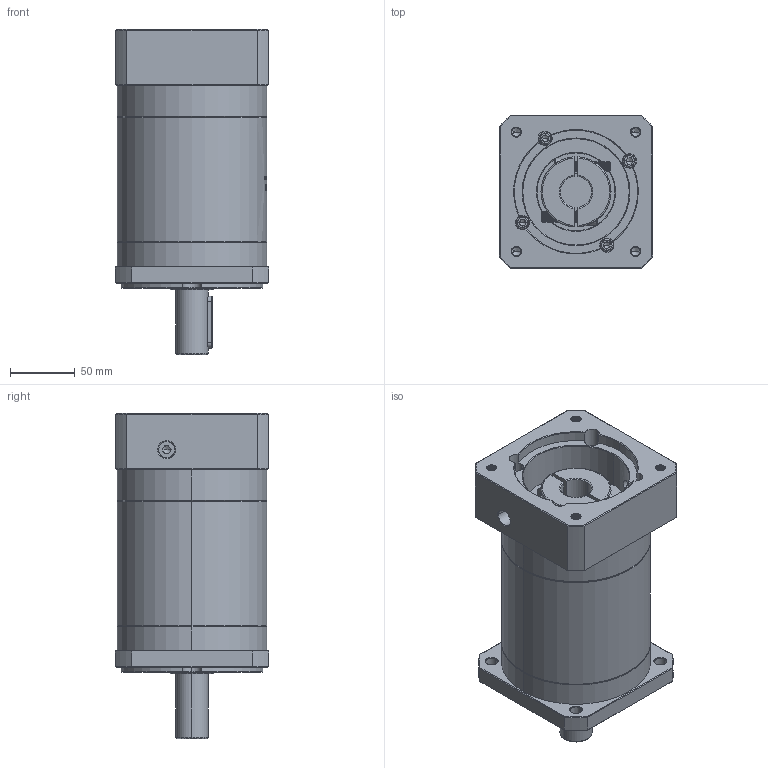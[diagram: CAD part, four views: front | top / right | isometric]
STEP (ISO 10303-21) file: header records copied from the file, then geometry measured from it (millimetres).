
FILE_DESCRIPTION (( 'STEP AP214' ), '1' );
FILE_NAME ('ZF120A-D25-L3-24-95-130-M8.step', '2023-03-07T09:31:42', ( '' ), ( '' ), 'SwSTEP 2.0', 'SolidWorks 2016', '' );
FILE_SCHEMA (( 'AUTOMOTIVE_DESIGN' ));
Length unit declared in the file: millimetre
Products named in the file (1): ZF120A-D25-L3-24-95-130-M8
Bounding box: 118 x 118 x 250.5 mm (x, y, z)
Volume: 2051545.7 mm3; surface area: 185955.4 mm2
Topology: 6 solids, 6 shells, 1950 faces, 5114 edges, 3258 vertices
Faces by surface type: plane 857, cylinder 425, cone 327, bspline 321, torus 20
Entity records: 107120 total; most frequent: CARTESIAN_POINT 41417, ORIENTED_EDGE 10168, DIRECTION 7891, EDGE_CURVE 5084, VERTEX_POINT 3258, LINE 2749, VECTOR 2749, AXIS2_PLACEMENT_3D 2571
